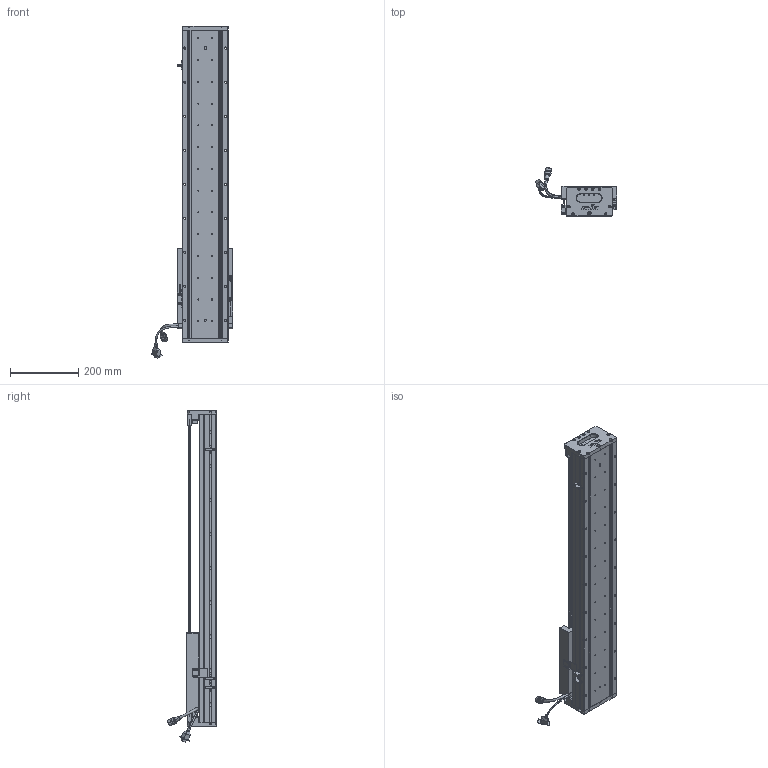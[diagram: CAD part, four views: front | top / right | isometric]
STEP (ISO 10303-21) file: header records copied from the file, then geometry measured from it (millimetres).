
FILE_DESCRIPTION (( 'STEP AP203' ), '1' );
FILE_NAME ('Z3-RY140D-1-L500-B-K.SLDASM_0600.step', '2021-05-17T08:00:26', ( '盈信电脑' ), ( '东莞市道滘镇水果街19号' ), 'SwSTEP 2.0', 'SolidWorks 2016', '' );
FILE_SCHEMA (( 'CONFIG_CONTROL_DESIGN' ));
Length unit declared in the file: millimetre
Products named in the file (36): LABEL-Part-1; COVER; PBU_SHEET; Z-RY140詩湍狟揤裔; 080黍杅芛假蚾釱21遴; Z-RY140詩湍奻揤裔; HARNESS-Part-1; SCREW-M1.7; HOLDER0; Z-140詩湍傷裔啣; SCREW-M1.6; SEAL; Z3-RY140圉猾敕臏賑輸(21遴); LABEL; 榋妏寠巭燃_暯_M2_2; SCALE-Part-1; 140蚥薯蝶輸; SCREW-M1.6-3; Z3-RY140-L500直线电机模组底座_0600; SHIELDPLATE; HARNESS; HARNESS-Part-2; 140雄赽晤鎢ん堤盄; SCALE; SCREW-M1.6-1; 覜茼ん672; SEAL-Part-1; COVER-Part-1; 140-Z-臏賑輸盄裔(21遴); PSLH080_PSLF2; Z-RY140感应器672光电感应片; SCALE-Part-2; Z3-RY140-L500詩湍100mm遵_0600; Z3-RY140D-1-L500-B-K.SLDASM_0600; SCREW-M1.7-1; SCREW-M1.6-2
Assembly tree (41 placements, depth 4):
  Z3-RY140D-1-L500-B-K.SLDASM_0600
    Z3-RY140-L500直线电机模组底座_0600
    Z-RY140感应器672光电感应片
    Z3-RY140圉猾敕臏賑輸(21遴)
    覜茼ん672  x3
    Z3-RY140-L500詩湍100mm遵_0600
    PSLH080_PSLF2
      SCALE
        SCALE-Part-1
        SCALE-Part-2
      HARNESS
        HARNESS-Part-1
        HARNESS-Part-2
      LABEL
        LABEL-Part-1
      COVER
        COVER-Part-1
      SEAL
        SEAL-Part-1
      榋妏寠巭燃_暯_M2_2
      SHIELDPLATE
      SCREW-M1.7
      SCREW-M1.7-1
      PBU_SHEET
      SCREW-M1.6
      SCREW-M1.6-1
      SCREW-M1.6-2
      SCREW-M1.6-3
      HOLDER0
    080黍杅芛假蚾釱21遴
    140-Z-臏賑輸盄裔(21遴)
    Z-140詩湍傷裔啣  x2
    Z-RY140詩湍狟揤裔  x2
    Z-RY140詩湍奻揤裔  x2
    140蚥薯蝶輸  x2
    140雄赽晤鎢ん堤盄
Bounding box: 239.84 x 143.88 x 975.88 mm (x, y, z)
Volume: 3763169.5 mm3; surface area: 967808.1 mm2
Topology: 36 solids, 36 shells, 2892 faces, 7604 edges, 4813 vertices
Faces by surface type: cylinder 1350, plane 1130, cone 290, torus 69, bspline 53
Entity records: 84196 total; most frequent: CARTESIAN_POINT 21037, ORIENTED_EDGE 12352, DIRECTION 12296, EDGE_CURVE 6176, AXIS2_PLACEMENT_3D 4520, VERTEX_POINT 3981, VECTOR 3256, LINE 3256
